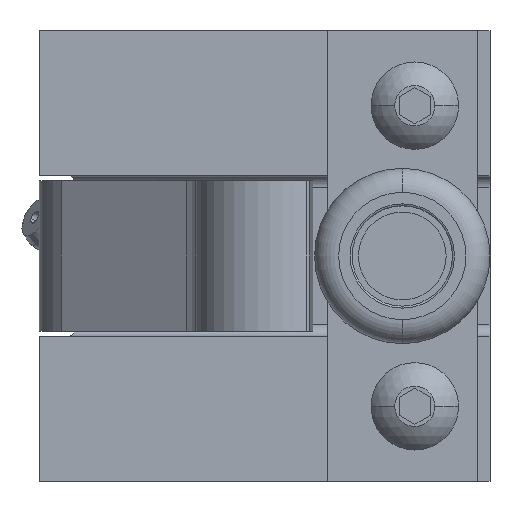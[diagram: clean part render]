
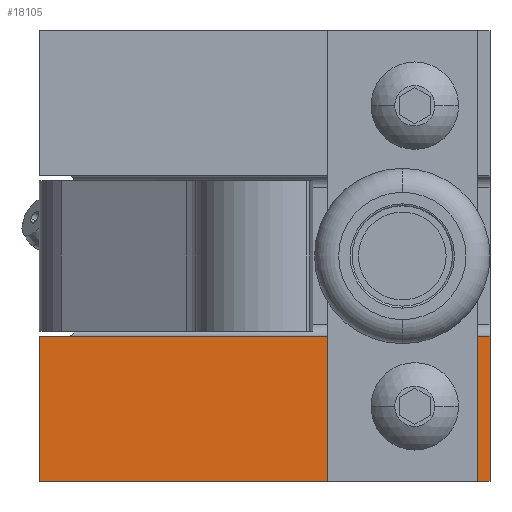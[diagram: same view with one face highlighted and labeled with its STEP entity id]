
A CAD part, left-side view. The second image highlights one B-rep face of the part: STEP entity #18105.
In plain terms, the highlighted planar face has unit normal (-1, 0, 0).
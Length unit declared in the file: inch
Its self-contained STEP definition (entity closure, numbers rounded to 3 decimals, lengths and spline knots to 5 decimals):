
#18088 = EDGE_CURVE ( 'NONE', #18134, #18218, #25920, .T. ) ;
#18105 = ADVANCED_FACE ( 'NONE', ( #25967, #25966 ), #25948, .T. ) ;
#18108 = EDGE_LOOP ( 'NONE', ( #18110, #23046 ) ) ;
#18110 = ORIENTED_EDGE ( 'NONE', *, *, #18112, .F. ) ;
#18112 = EDGE_CURVE ( 'NONE', #23044, #23045, #26000, .T. ) ;
#18134 = VERTEX_POINT ( 'NONE', #26021 ) ;
#18153 = EDGE_CURVE ( 'NONE', #23052, #18188, #26084, .T. ) ;
#18155 = ORIENTED_EDGE ( 'NONE', *, *, #18187, .T. ) ;
#18187 = EDGE_CURVE ( 'NONE', #18188, #18218, #26132, .T. ) ;
#18188 = VERTEX_POINT ( 'NONE', #26128 ) ;
#18218 = VERTEX_POINT ( 'NONE', #26191 ) ;
#23044 = VERTEX_POINT ( 'NONE', #26347 ) ;
#23045 = VERTEX_POINT ( 'NONE', #26346 ) ;
#23046 = ORIENTED_EDGE ( 'NONE', *, *, #23047, .F. ) ;
#23047 = EDGE_CURVE ( 'NONE', #23045, #23044, #26345, .T. ) ;
#23048 = EDGE_LOOP ( 'NONE', ( #23049, #23050, #24279, #18155 ) ) ;
#23049 = ORIENTED_EDGE ( 'NONE', *, *, #18088, .F. ) ;
#23050 = ORIENTED_EDGE ( 'NONE', *, *, #23051, .F. ) ;
#23051 = EDGE_CURVE ( 'NONE', #23052, #18134, #26340, .T. ) ;
#23052 = VERTEX_POINT ( 'NONE', #26336 ) ;
#24279 = ORIENTED_EDGE ( 'NONE', *, *, #18153, .T. ) ;
#25917 = DIRECTION ( 'NONE',  ( 0., -1., 0. ) ) ;
#25918 = VECTOR ( 'NONE', #25917, 39.37008 ) ;
#25919 = CARTESIAN_POINT ( 'NONE',  ( -0.97582, -1.14769, -0.46331 ) ) ;
#25920 = LINE ( 'NONE', #25919, #25918 ) ;
#25945 = DIRECTION ( 'NONE',  ( -1., 0., 0. ) ) ;
#25946 = CARTESIAN_POINT ( 'NONE',  ( -0.97582, -1.14769, -1.18831 ) ) ;
#25947 = AXIS2_PLACEMENT_3D ( 'NONE', #25946, #25945, #26001 ) ;
#25948 = PLANE ( 'NONE',  #25947 ) ;
#25966 = FACE_OUTER_BOUND ( 'NONE', #23048, .T. ) ;
#25967 = FACE_BOUND ( 'NONE', #18108, .T. ) ;
#25996 = DIRECTION ( 'NONE',  ( 0., 0., 1. ) ) ;
#25997 = DIRECTION ( 'NONE',  ( -1., 0., 0. ) ) ;
#25998 = CARTESIAN_POINT ( 'NONE',  ( -0.97582, -0.77269, -0.81331 ) ) ;
#25999 = AXIS2_PLACEMENT_3D ( 'NONE', #25998, #25997, #25996 ) ;
#26000 = CIRCLE ( 'NONE', #25999, 0.125 ) ;
#26001 = DIRECTION ( 'NONE',  ( 0., 0., 1. ) ) ;
#26021 = CARTESIAN_POINT ( 'NONE',  ( -0.97582, 1.10231, -0.46331 ) ) ;
#26081 = DIRECTION ( 'NONE',  ( 0., -1., 0. ) ) ;
#26082 = VECTOR ( 'NONE', #26081, 39.37008 ) ;
#26083 = CARTESIAN_POINT ( 'NONE',  ( -0.97582, -1.14769, -1.18831 ) ) ;
#26084 = LINE ( 'NONE', #26083, #26082 ) ;
#26128 = CARTESIAN_POINT ( 'NONE',  ( -0.97582, -1.14769, -1.18831 ) ) ;
#26129 = DIRECTION ( 'NONE',  ( 0., 0., 1. ) ) ;
#26130 = VECTOR ( 'NONE', #26129, 39.37008 ) ;
#26131 = CARTESIAN_POINT ( 'NONE',  ( -0.97582, -1.14769, -1.18831 ) ) ;
#26132 = LINE ( 'NONE', #26131, #26130 ) ;
#26191 = CARTESIAN_POINT ( 'NONE',  ( -0.97582, -1.14769, -0.46331 ) ) ;
#26336 = CARTESIAN_POINT ( 'NONE',  ( -0.97582, 1.10231, -1.18831 ) ) ;
#26337 = DIRECTION ( 'NONE',  ( 0., 0., 1. ) ) ;
#26338 = VECTOR ( 'NONE', #26337, 39.37008 ) ;
#26339 = CARTESIAN_POINT ( 'NONE',  ( -0.97582, 1.10231, -1.18831 ) ) ;
#26340 = LINE ( 'NONE', #26339, #26338 ) ;
#26341 = DIRECTION ( 'NONE',  ( 0., 0., 1. ) ) ;
#26342 = DIRECTION ( 'NONE',  ( -1., 0., 0. ) ) ;
#26343 = CARTESIAN_POINT ( 'NONE',  ( -0.97582, -0.77269, -0.81331 ) ) ;
#26344 = AXIS2_PLACEMENT_3D ( 'NONE', #26343, #26342, #26341 ) ;
#26345 = CIRCLE ( 'NONE', #26344, 0.125 ) ;
#26346 = CARTESIAN_POINT ( 'NONE',  ( -0.97582, -0.77269, -0.93831 ) ) ;
#26347 = CARTESIAN_POINT ( 'NONE',  ( -0.97582, -0.77269, -0.68831 ) ) ;
